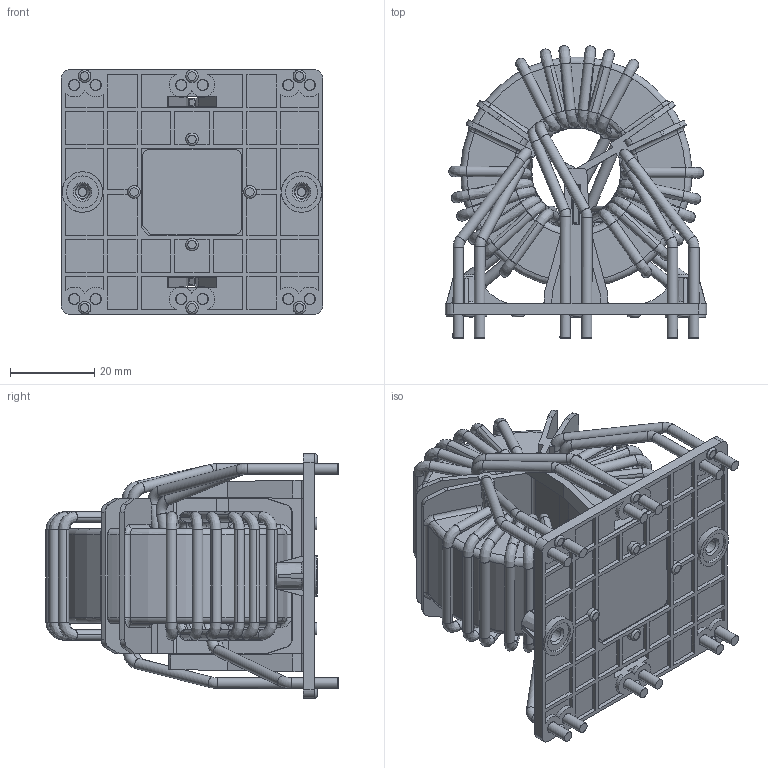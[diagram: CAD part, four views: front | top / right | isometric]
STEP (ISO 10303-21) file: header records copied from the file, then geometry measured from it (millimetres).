
FILE_DESCRIPTION((''),'2;1');
FILE_NAME('K:\Development\Projects\RB\Angel_standard choke series 2011\70_Realization_Revision\702_MechanicalDesign\RB6532-50-0M2 for customer_包覆面提取_2.stp','2013-02-20T16:25:56',('fiona.chen'),(''),'Autodesk Inventor 2010','Autodesk Inventor 2010','');
FILE_SCHEMA(('AUTOMOTIVE_DESIGN { 1 0 10303 214 1 1 1 1 }'));
Length unit declared in the file: millimetre
Products named in the file (1): RB6532-50-0M2  for customer_包覆面提取_2
Bounding box: 62 x 69.41 x 58 mm (x, y, z)
Volume: 64886.3 mm3; surface area: 43455.8 mm2
Topology: 1 solids, 1 shells, 1010 faces, 2970 edges, 1940 vertices
Faces by surface type: plane 400, bspline 304, cylinder 180, torus 84, cone 42
Full cylindrical faces by diameter (mm): 2.5 x29, 2.7 x12, 3 x10, 9.6 x2
Entity records: 40993 total; most frequent: CARTESIAN_POINT 14878, ORIENTED_EDGE 5590, DIRECTION 4892, EDGE_CURVE 2795, VERTEX_POINT 1882, AXIS2_PLACEMENT_3D 1878, EDGE_LOOP 1189, VECTOR 1136
